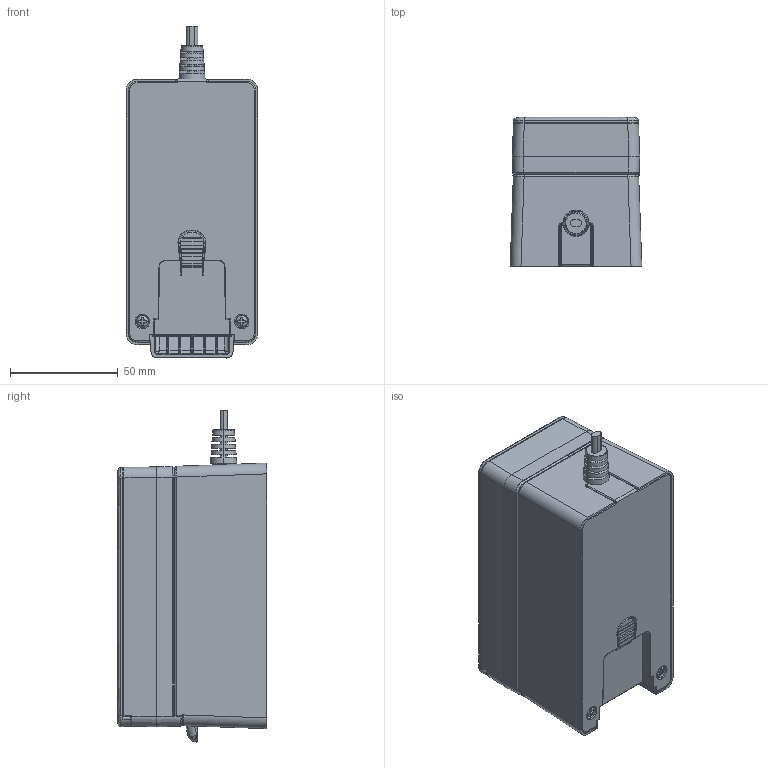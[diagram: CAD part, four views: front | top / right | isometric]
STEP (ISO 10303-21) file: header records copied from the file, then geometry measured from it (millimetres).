
FILE_DESCRIPTION (( 'STEP AP203' ), '1' );
FILE_NAME ('3D_TP11.STEP', '2018-12-06T06:44:09', ( '' ), ( '' ), 'SwSTEP 2.0', 'SolidWorks 2015', '' );
FILE_SCHEMA (( 'CONFIG_CONTROL_DESIGN' ));
Length unit declared in the file: millimetre
Products named in the file (2): 3D_TP11
Bounding box: 61 x 69.23 x 153.79 mm (x, y, z)
Volume: 481302.1 mm3; surface area: 103738 mm2
Topology: 9 solids, 9 shells, 868 faces, 2268 edges, 1432 vertices
Faces by surface type: plane 373, cylinder 246, bspline 183, torus 32, sphere 18, cone 16
Entity records: 30821 total; most frequent: CARTESIAN_POINT 11117, ORIENTED_EDGE 4488, DIRECTION 3394, EDGE_CURVE 2244, VERTEX_POINT 1427, VECTOR 1246, LINE 1246, AXIS2_PLACEMENT_3D 1074
